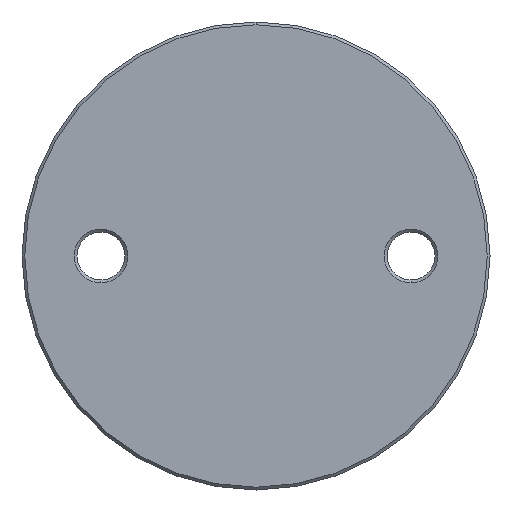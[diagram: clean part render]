
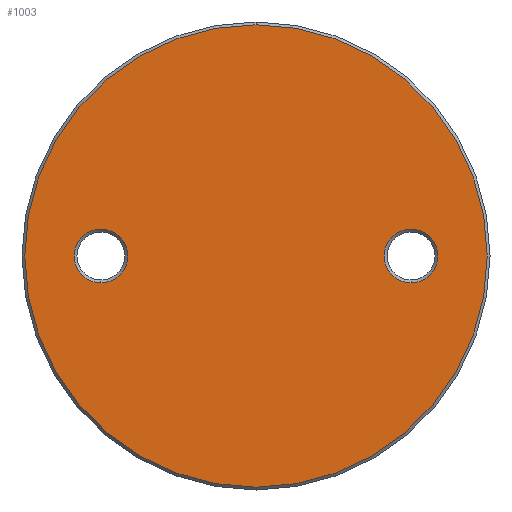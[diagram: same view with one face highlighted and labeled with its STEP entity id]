
A CAD part, front view. The second image highlights one B-rep face of the part: STEP entity #1003.
In plain terms, the highlighted planar face has unit normal (0, -1, 0).
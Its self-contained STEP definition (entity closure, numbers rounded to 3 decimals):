
#13 = VERTEX_POINT ( 'NONE', #4578 ) ;
#41 = ORIENTED_EDGE ( 'NONE', *, *, #1786, .T. ) ;
#228 = EDGE_CURVE ( 'NONE', #13, #1899, #3664, .T. ) ;
#372 = CARTESIAN_POINT ( 'NONE',  ( 27.5, -3., 0. ) ) ;
#761 = CARTESIAN_POINT ( 'NONE',  ( 0., -3., 41.5 ) ) ;
#1003 = ADVANCED_FACE ( 'NONE', ( #5843, #2290, #6598 ), #3888, .T. ) ;
#1028 = VERTEX_POINT ( 'NONE', #6038 ) ;
#1397 = VERTEX_POINT ( 'NONE', #5387 ) ;
#1612 = DIRECTION ( 'NONE',  ( 0., 0., -1. ) ) ;
#1657 = EDGE_LOOP ( 'NONE', ( #5708, #5025 ) ) ;
#1786 = EDGE_CURVE ( 'NONE', #5785, #1397, #4937, .T. ) ;
#1794 = DIRECTION ( 'NONE',  ( 0., -1., 0. ) ) ;
#1892 = CARTESIAN_POINT ( 'NONE',  ( 0., -3., 0. ) ) ;
#1899 = VERTEX_POINT ( 'NONE', #4791 ) ;
#1992 = CARTESIAN_POINT ( 'NONE',  ( 0., -3., 0. ) ) ;
#2016 = DIRECTION ( 'NONE',  ( 0., 0., -1. ) ) ;
#2275 = EDGE_CURVE ( 'NONE', #1028, #3278, #3089, .T. ) ;
#2290 = FACE_BOUND ( 'NONE', #4385, .T. ) ;
#2482 = DIRECTION ( 'NONE',  ( 0., 0., -1. ) ) ;
#3054 = DIRECTION ( 'NONE',  ( 0., 1., 0. ) ) ;
#3089 = CIRCLE ( 'NONE', #4177, 41. ) ;
#3151 = EDGE_CURVE ( 'NONE', #1397, #5785, #3323, .T. ) ;
#3278 = VERTEX_POINT ( 'NONE', #5689 ) ;
#3323 = CIRCLE ( 'NONE', #4484, 4.75 ) ;
#3390 = AXIS2_PLACEMENT_3D ( 'NONE', #761, #1794, #4491 ) ;
#3664 = CIRCLE ( 'NONE', #4389, 4.75 ) ;
#3888 = PLANE ( 'NONE',  #3390 ) ;
#3902 = DIRECTION ( 'NONE',  ( 0., 0., -1. ) ) ;
#3922 = DIRECTION ( 'NONE',  ( 0., 1., 0. ) ) ;
#4004 = EDGE_CURVE ( 'NONE', #3278, #1028, #4836, .T. ) ;
#4084 = CARTESIAN_POINT ( 'NONE',  ( -27.5, -3., 0. ) ) ;
#4085 = CARTESIAN_POINT ( 'NONE',  ( 27.5, -3., 0. ) ) ;
#4149 = DIRECTION ( 'NONE',  ( 0., 0., -1. ) ) ;
#4177 = AXIS2_PLACEMENT_3D ( 'NONE', #1992, #6285, #4149 ) ;
#4313 = CIRCLE ( 'NONE', #5575, 4.75 ) ;
#4385 = EDGE_LOOP ( 'NONE', ( #41, #4905 ) ) ;
#4389 = AXIS2_PLACEMENT_3D ( 'NONE', #4085, #3054, #2482 ) ;
#4438 = CARTESIAN_POINT ( 'NONE',  ( -27.5, -3., 0. ) ) ;
#4484 = AXIS2_PLACEMENT_3D ( 'NONE', #4438, #3922, #3902 ) ;
#4491 = DIRECTION ( 'NONE',  ( 0., 0., -1. ) ) ;
#4537 = ORIENTED_EDGE ( 'NONE', *, *, #228, .T. ) ;
#4578 = CARTESIAN_POINT ( 'NONE',  ( 27.5, -3., 4.75 ) ) ;
#4592 = EDGE_CURVE ( 'NONE', #1899, #13, #4313, .T. ) ;
#4688 = DIRECTION ( 'NONE',  ( 0., 1., 0. ) ) ;
#4736 = EDGE_LOOP ( 'NONE', ( #6470, #4537 ) ) ;
#4791 = CARTESIAN_POINT ( 'NONE',  ( 27.5, -3., -4.75 ) ) ;
#4836 = CIRCLE ( 'NONE', #4909, 41. ) ;
#4905 = ORIENTED_EDGE ( 'NONE', *, *, #3151, .T. ) ;
#4909 = AXIS2_PLACEMENT_3D ( 'NONE', #1892, #6180, #5647 ) ;
#4937 = CIRCLE ( 'NONE', #5602, 4.75 ) ;
#5025 = ORIENTED_EDGE ( 'NONE', *, *, #2275, .T. ) ;
#5387 = CARTESIAN_POINT ( 'NONE',  ( -27.5, -3., 4.75 ) ) ;
#5575 = AXIS2_PLACEMENT_3D ( 'NONE', #372, #4688, #2016 ) ;
#5602 = AXIS2_PLACEMENT_3D ( 'NONE', #4084, #5683, #1612 ) ;
#5647 = DIRECTION ( 'NONE',  ( 0., 0., -1. ) ) ;
#5683 = DIRECTION ( 'NONE',  ( 0., 1., 0. ) ) ;
#5689 = CARTESIAN_POINT ( 'NONE',  ( 0., -3., 41. ) ) ;
#5708 = ORIENTED_EDGE ( 'NONE', *, *, #4004, .T. ) ;
#5785 = VERTEX_POINT ( 'NONE', #6710 ) ;
#5843 = FACE_BOUND ( 'NONE', #4736, .T. ) ;
#6038 = CARTESIAN_POINT ( 'NONE',  ( 0., -3., -41. ) ) ;
#6180 = DIRECTION ( 'NONE',  ( 0., -1., 0. ) ) ;
#6285 = DIRECTION ( 'NONE',  ( 0., -1., 0. ) ) ;
#6470 = ORIENTED_EDGE ( 'NONE', *, *, #4592, .T. ) ;
#6598 = FACE_OUTER_BOUND ( 'NONE', #1657, .T. ) ;
#6710 = CARTESIAN_POINT ( 'NONE',  ( -27.5, -3., -4.75 ) ) ;
